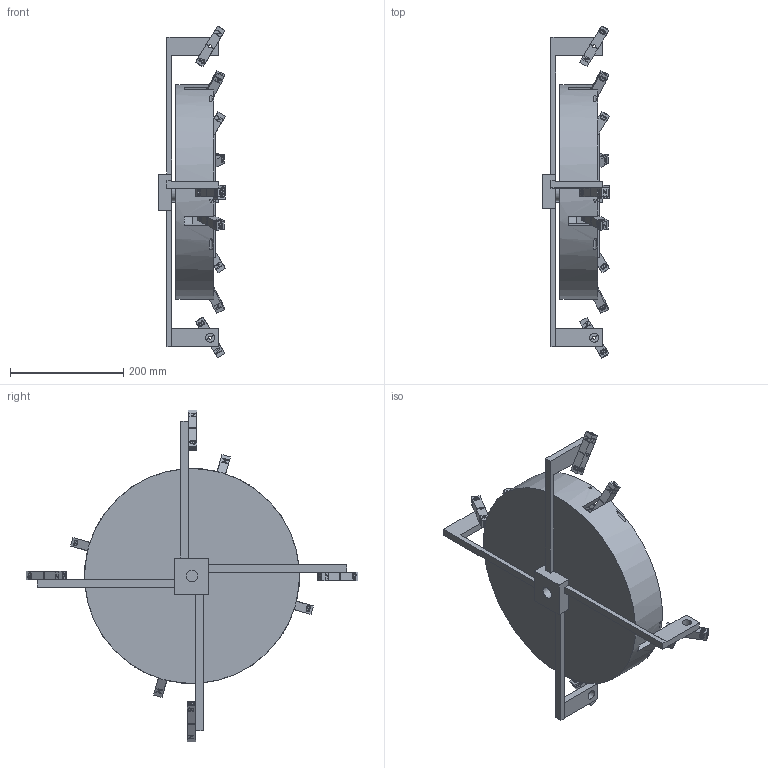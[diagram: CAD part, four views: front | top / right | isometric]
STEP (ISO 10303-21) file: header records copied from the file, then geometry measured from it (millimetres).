
FILE_DESCRIPTION(/* description */ (''),/* implementation_level */ '2;1');
FILE_NAME(/* name */ 'c:\worker\convert-fusion-r07\tmp\job-1\33\output\files\ccc43559-8306-4deb-98cb-0ef893a1e7a3\cd9648ca-4348-4626-bfab-f9cd8a06a14d.stp',/* time_stamp */ '2021-10-25T14:16:49+00:00',/* author */ (''),/* organization */ (''),/* preprocessor_version */ 'ST-DEVELOPER v18.1',/* originating_system */ 'Autodesk Translation Framework v10.10.0.1391',/* authorisation */ '');
FILE_SCHEMA (('AUTOMOTIVE_DESIGN { 1 0 10303 214 3 1 1 }'));
Length unit declared in the file: millimetre
Products named in the file (5): Kryon_assy; rotating; stator; Stator-center; magnet
Assembly tree (15 placements, depth 2):
  Kryon_assy
    rotating
    magnet  x12
    stator
    Stator-center
Bounding box: 118.21 x 586.88 x 586.88 mm (x, y, z)
Volume: 2571722.6 mm3; surface area: 592661.8 mm2
Topology: 18 solids, 42 shells, 3205 faces, 9132 edges, 6088 vertices
Faces by surface type: bspline 1980, plane 1193, cylinder 32
Full cylindrical faces by diameter (mm): 5.366 x12, 5.952 x8, 10.984 x4, 16.234 x4, 21.111 x1, 31.884 x1, 359.984 x1, 379.984 x1
Entity records: 13845 total; most frequent: CARTESIAN_POINT 5247, ORIENTED_EDGE 2028, DIRECTION 1196, EDGE_CURVE 1014, VERTEX_POINT 676, LINE 602, VECTOR 602, EDGE_LOOP 406
